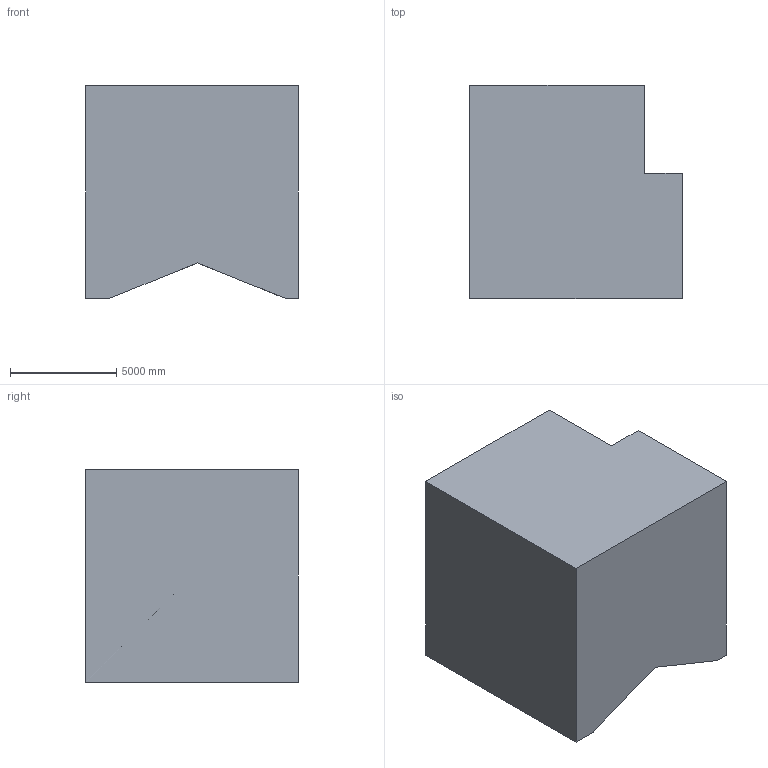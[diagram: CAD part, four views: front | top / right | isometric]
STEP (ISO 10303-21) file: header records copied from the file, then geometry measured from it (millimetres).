
FILE_DESCRIPTION (( 'STEP AP203' ), '1' );
FILE_NAME ('240.STEP', '2022-07-28T14:00:50', ( 'user' ), ( '' ), 'SwSTEP 2.0', 'SolidWorks 2021', '' );
FILE_SCHEMA (( 'CONFIG_CONTROL_DESIGN' ));
Length unit declared in the file: centimetre
Products named in the file (1): 240
Bounding box: 10000 x 10000 x 10000 mm (x, y, z)
Volume: 839218031837.7 mm3; surface area: 600978719.4 mm2
Topology: 1 solids, 1 shells, 18 faces, 48 edges, 32 vertices
Faces by surface type: plane 18
Entity records: 629 total; most frequent: CARTESIAN_POINT 99, ORIENTED_EDGE 96, DIRECTION 86, LINE 48, VECTOR 48, EDGE_CURVE 48, VERTEX_POINT 32, AXIS2_PLACEMENT_3D 19
